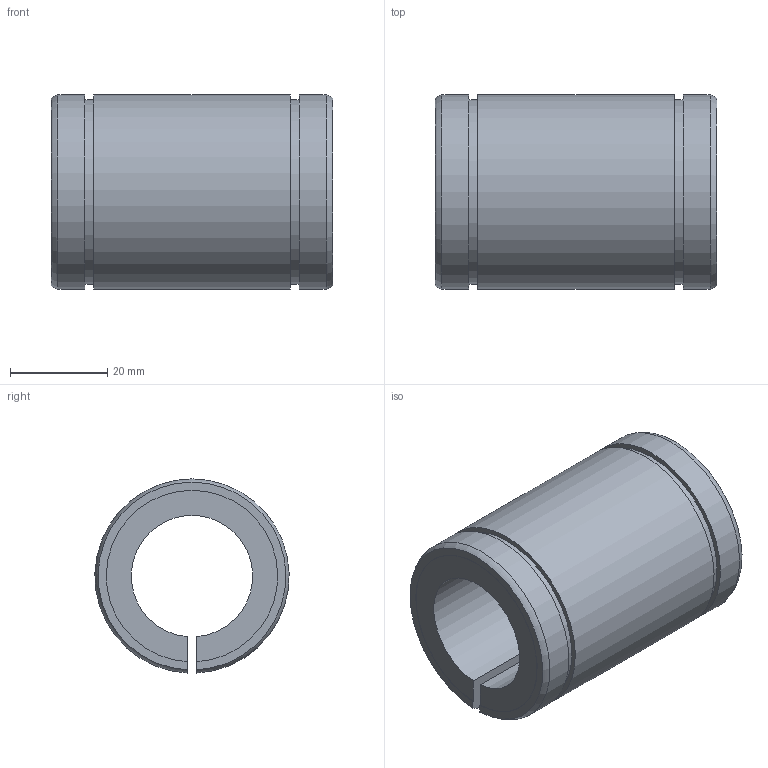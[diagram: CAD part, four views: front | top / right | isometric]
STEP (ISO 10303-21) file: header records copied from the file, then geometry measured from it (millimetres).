
FILE_DESCRIPTION((''),'2;1');
FILE_NAME('D:\製品 (図面)\カタログ用3D\リニアベアリング関連\STEP形式\LE-ADJ\LE25-ADJ.stp','2010-06-03T09:08:11',('Tsuchiya'),(''),'Autodesk Inventor 10','Autodesk Inventor 10','');
FILE_SCHEMA(('AUTOMOTIVE_DESIGN { 1 0 10303 214 1 1 1 1 }'));
Length unit declared in the file: millimetre
Products named in the file (1): LE25-ADJ
Bounding box: 58 x 39.99 x 39.98 mm (x, y, z)
Volume: 42905.2 mm3; surface area: 14309.9 mm2
Topology: 1 solids, 1 shells, 20 faces, 54 edges, 36 vertices
Faces by surface type: plane 10, cylinder 8, torus 2
Entity records: 693 total; most frequent: CARTESIAN_POINT 153, DIRECTION 110, ORIENTED_EDGE 108, EDGE_CURVE 54, AXIS2_PLACEMENT_3D 39, VERTEX_POINT 36, VECTOR 32, LINE 32
